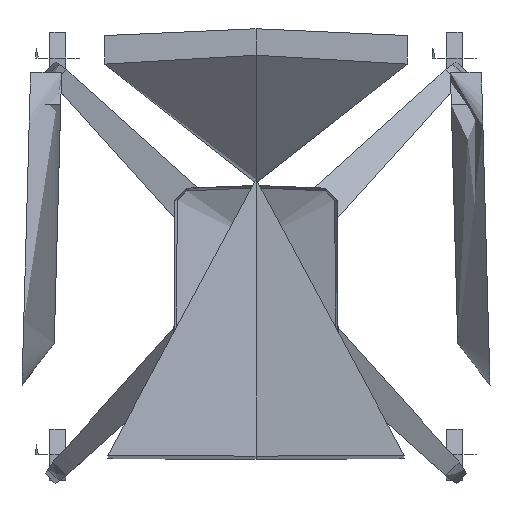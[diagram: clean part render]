
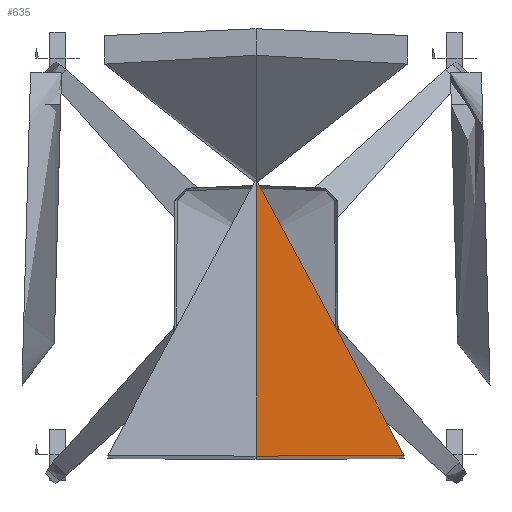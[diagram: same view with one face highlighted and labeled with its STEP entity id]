
A CAD part, top view. The second image highlights one B-rep face of the part: STEP entity #635.
In plain terms, the highlighted free-form (B-spline) face has degree [3, 3] with [4, 9] control points.
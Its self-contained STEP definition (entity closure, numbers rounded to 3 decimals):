
#635=ADVANCED_FACE('',(#869),#3386,.T.);
#869=FACE_OUTER_BOUND('',#1103,.T.);
#1103=EDGE_LOOP('',(#1367,#1368,#1369,#1370,#1371,#1372));
#1367=ORIENTED_EDGE('',*,*,#2344,.T.);
#1368=ORIENTED_EDGE('',*,*,#2348,.T.);
#1369=ORIENTED_EDGE('',*,*,#2341,.T.);
#1370=ORIENTED_EDGE('',*,*,#2350,.T.);
#1371=ORIENTED_EDGE('',*,*,#2349,.F.);
#1372=ORIENTED_EDGE('',*,*,#2351,.F.);
#2341=EDGE_CURVE('',#3057,#3056,#2871,.T.);
#2344=EDGE_CURVE('',#3060,#3058,#2874,.T.);
#2348=EDGE_CURVE('',#3058,#3057,#2878,.T.);
#2349=EDGE_CURVE('',#3061,#3062,#2879,.T.);
#2350=EDGE_CURVE('',#3056,#3062,#2880,.T.);
#2351=EDGE_CURVE('',#3060,#3061,#2881,.T.);
#2871=B_SPLINE_CURVE_WITH_KNOTS('',3,(#10774,#10775,#10776,#10777,#10778,
#10779,#10780,#10781,#10782),.UNSPECIFIED.,.F.,.F.,(4,1,1,1,1,1,4),(0.,
73.633,147.266,220.899,294.532,368.165,
441.798),.UNSPECIFIED.);
#2874=B_SPLINE_CURVE_WITH_KNOTS('',3,(#10799,#10800,#10801,#10802,#10803,
#10804,#10805,#10806,#10807,#10808,#10809,#10810,#10811,#10812,#10813,#10814,
#10815,#10816,#10817,#10818,#10819,#10820,#10821,#10822,#10823),
 .UNSPECIFIED.,.F.,.F.,(4,1,1,1,1,1,1,1,1,1,1,1,1,1,2,1,1,1,1,1,1,4),(0.,
4.583,9.166,13.749,18.332,22.915,
27.498,36.664,54.995,73.327,91.659,
100.825,109.991,119.157,120.717,128.322,
146.654,164.986,183.318,201.649,219.981,
238.313),.UNSPECIFIED.);
#2878=B_SPLINE_CURVE_WITH_KNOTS('',3,(#10930,#10931,#10932,#10933),
 .UNSPECIFIED.,.F.,.F.,(4,4),(-146.56,0.),.UNSPECIFIED.);
#2879=B_SPLINE_CURVE_WITH_KNOTS('',3,(#10934,#10935,#10936,#10937,#10938),
 .UNSPECIFIED.,.F.,.F.,(4,1,4),(298.037,368.165,441.798),
 .UNSPECIFIED.);
#2880=B_SPLINE_CURVE_WITH_KNOTS('',3,(#10939,#10940,#10941,#10942,#10943,
#10944,#10945),.UNSPECIFIED.,.F.,.F.,(4,3,4),(0.,146.56,313.738),
 .UNSPECIFIED.);
#2881=B_SPLINE_CURVE_WITH_KNOTS('',3,(#10946,#10947,#10948,#10949,#10950,
#10951,#10952,#10953),.UNSPECIFIED.,.F.,.F.,(4,1,1,1,1,4),(67.257,
73.633,147.266,220.899,294.532,298.037),
 .UNSPECIFIED.);
#3056=VERTEX_POINT('',#10410);
#3057=VERTEX_POINT('',#10411);
#3058=VERTEX_POINT('',#10412);
#3060=VERTEX_POINT('',#10414);
#3061=VERTEX_POINT('',#10415);
#3062=VERTEX_POINT('',#10416);
#3386=B_SPLINE_SURFACE_WITH_KNOTS('',3,3,((#8028,#8029,#8030,#8031,#8032,
#8033,#8034,#8035,#8036),(#8037,#8038,#8039,#8040,#8041,#8042,#8043,#8044,
#8045),(#8046,#8047,#8048,#8049,#8050,#8051,#8052,#8053,#8054),(#8055,#8056,
#8057,#8058,#8059,#8060,#8061,#8062,#8063)),.UNSPECIFIED.,.F.,.F.,.F.,(4,
4),(4,1,1,1,1,1,4),(0.,313.738),(-441.798,-368.165,
-294.532,-220.899,-147.266,-73.633,
0.),.UNSPECIFIED.);
#8028=CARTESIAN_POINT('',(0.,104.74,447.016));
#8029=CARTESIAN_POINT('',(72.274,104.74,447.016));
#8030=CARTESIAN_POINT('',(139.814,105.468,456.556));
#8031=CARTESIAN_POINT('',(167.339,106.066,464.39));
#8032=CARTESIAN_POINT('',(204.305,105.553,457.672));
#8033=CARTESIAN_POINT('',(243.614,104.45,443.211));
#8034=CARTESIAN_POINT('',(201.158,102.568,418.545));
#8035=CARTESIAN_POINT('',(109.984,101.027,398.34));
#8036=CARTESIAN_POINT('',(0.,101.027,398.34));
#8037=CARTESIAN_POINT('',(0.,0.465,454.971));
#8038=CARTESIAN_POINT('',(72.274,0.465,454.971));
#8039=CARTESIAN_POINT('',(139.814,1.192,464.51));
#8040=CARTESIAN_POINT('',(167.339,1.79,472.345));
#8041=CARTESIAN_POINT('',(204.305,1.277,465.627));
#8042=CARTESIAN_POINT('',(243.614,0.174,451.166));
#8043=CARTESIAN_POINT('',(201.158,-1.707,426.5));
#8044=CARTESIAN_POINT('',(99.643,-3.646,401.081));
#8045=CARTESIAN_POINT('',(0.,-3.646,401.081));
#8046=CARTESIAN_POINT('',(0.,-103.813,462.926));
#8047=CARTESIAN_POINT('',(72.274,-103.813,462.926));
#8048=CARTESIAN_POINT('',(139.814,-103.085,472.465));
#8049=CARTESIAN_POINT('',(167.339,-102.488,480.3));
#8050=CARTESIAN_POINT('',(204.305,-103.,473.582));
#8051=CARTESIAN_POINT('',(243.614,-104.103,459.121));
#8052=CARTESIAN_POINT('',(201.158,-105.985,434.455));
#8053=CARTESIAN_POINT('',(89.303,-108.322,403.822));
#8054=CARTESIAN_POINT('',(0.,-108.322,403.822));
#8055=CARTESIAN_POINT('',(0.,-208.088,470.88));
#8056=CARTESIAN_POINT('',(72.274,-208.088,470.88));
#8057=CARTESIAN_POINT('',(139.814,-207.361,480.42));
#8058=CARTESIAN_POINT('',(167.339,-206.763,488.255));
#8059=CARTESIAN_POINT('',(204.305,-207.276,481.536));
#8060=CARTESIAN_POINT('',(243.614,-208.379,467.075));
#8061=CARTESIAN_POINT('',(201.158,-210.26,442.409));
#8062=CARTESIAN_POINT('',(78.963,-212.995,406.563));
#8063=CARTESIAN_POINT('',(0.,-212.995,406.563));
#10410=CARTESIAN_POINT('',(0.,104.74,447.016));
#10411=CARTESIAN_POINT('',(0.,101.027,398.34));
#10412=CARTESIAN_POINT('',(0.,-45.665,402.181));
#10414=CARTESIAN_POINT('',(167.387,-210.897,434.068));
#10415=CARTESIAN_POINT('',(167.387,-206.951,485.786));
#10416=CARTESIAN_POINT('',(0.,-208.088,470.88));
#10774=CARTESIAN_POINT('',(0.,101.027,398.34));
#10775=CARTESIAN_POINT('',(109.984,101.027,398.34));
#10776=CARTESIAN_POINT('',(201.158,102.568,418.545));
#10777=CARTESIAN_POINT('',(243.614,104.45,443.211));
#10778=CARTESIAN_POINT('',(204.305,105.553,457.672));
#10779=CARTESIAN_POINT('',(167.339,106.066,464.39));
#10780=CARTESIAN_POINT('',(139.814,105.468,456.556));
#10781=CARTESIAN_POINT('',(72.274,104.74,447.016));
#10782=CARTESIAN_POINT('',(0.,104.74,447.016));
#10799=CARTESIAN_POINT('',(167.387,-210.897,434.068));
#10800=CARTESIAN_POINT('',(166.318,-209.859,433.64));
#10801=CARTESIAN_POINT('',(164.186,-207.787,432.794));
#10802=CARTESIAN_POINT('',(161.002,-204.693,431.554));
#10803=CARTESIAN_POINT('',(157.833,-201.611,430.344));
#10804=CARTESIAN_POINT('',(154.675,-198.539,429.162));
#10805=CARTESIAN_POINT('',(151.529,-195.475,428.008));
#10806=CARTESIAN_POINT('',(147.346,-191.399,426.509));
#10807=CARTESIAN_POINT('',(140.052,-184.286,423.983));
#10808=CARTESIAN_POINT('',(129.681,-174.152,420.651));
#10809=CARTESIAN_POINT('',(117.217,-161.94,417.084));
#10810=CARTESIAN_POINT('',(106.735,-151.641,414.456));
#10811=CARTESIAN_POINT('',(98.246,-143.282,412.555));
#10812=CARTESIAN_POINT('',(91.814,-136.941,411.227));
#10813=CARTESIAN_POINT('',(87.106,-132.294,410.336));
#10814=CARTESIAN_POINT('',(84.548,-129.766,409.878));
#10815=CARTESIAN_POINT('',(82.359,-127.603,409.488));
#10816=CARTESIAN_POINT('',(76.166,-121.481,408.431));
#10817=CARTESIAN_POINT('',(65.604,-111.02,406.873));
#10818=CARTESIAN_POINT('',(52.491,-98.003,405.326));
#10819=CARTESIAN_POINT('',(39.38,-84.962,404.125));
#10820=CARTESIAN_POINT('',(26.265,-71.895,403.225));
#10821=CARTESIAN_POINT('',(13.142,-58.798,402.582));
#10822=CARTESIAN_POINT('',(4.383,-50.047,402.296));
#10823=CARTESIAN_POINT('',(0.,-45.665,402.181));
#10930=CARTESIAN_POINT('',(0.,-45.665,402.181));
#10931=CARTESIAN_POINT('',(0.,3.232,400.901));
#10932=CARTESIAN_POINT('',(0.,52.13,399.62));
#10933=CARTESIAN_POINT('',(0.,101.027,398.34));
#10934=CARTESIAN_POINT('',(167.387,-206.951,485.786));
#10935=CARTESIAN_POINT('',(157.263,-206.981,485.392));
#10936=CARTESIAN_POINT('',(138.206,-207.378,480.193));
#10937=CARTESIAN_POINT('',(72.274,-208.088,470.88));
#10938=CARTESIAN_POINT('',(0.,-208.088,470.88));
#10939=CARTESIAN_POINT('',(0.,104.74,447.016));
#10940=CARTESIAN_POINT('',(0.,56.029,450.732));
#10941=CARTESIAN_POINT('',(0.,7.317,454.448));
#10942=CARTESIAN_POINT('',(0.,-41.395,458.164));
#10943=CARTESIAN_POINT('',(0.,-96.96,462.403));
#10944=CARTESIAN_POINT('',(0.,-152.524,466.642));
#10945=CARTESIAN_POINT('',(0.,-208.088,470.88));
#10946=CARTESIAN_POINT('',(167.387,-210.897,434.068));
#10947=CARTESIAN_POINT('',(170.993,-210.806,435.258));
#10948=CARTESIAN_POINT('',(214.085,-209.687,449.919));
#10949=CARTESIAN_POINT('',(243.614,-208.379,467.075));
#10950=CARTESIAN_POINT('',(204.305,-207.276,481.536));
#10951=CARTESIAN_POINT('',(179.075,-206.926,486.122));
#10952=CARTESIAN_POINT('',(167.893,-206.95,485.806));
#10953=CARTESIAN_POINT('',(167.387,-206.951,485.786));
